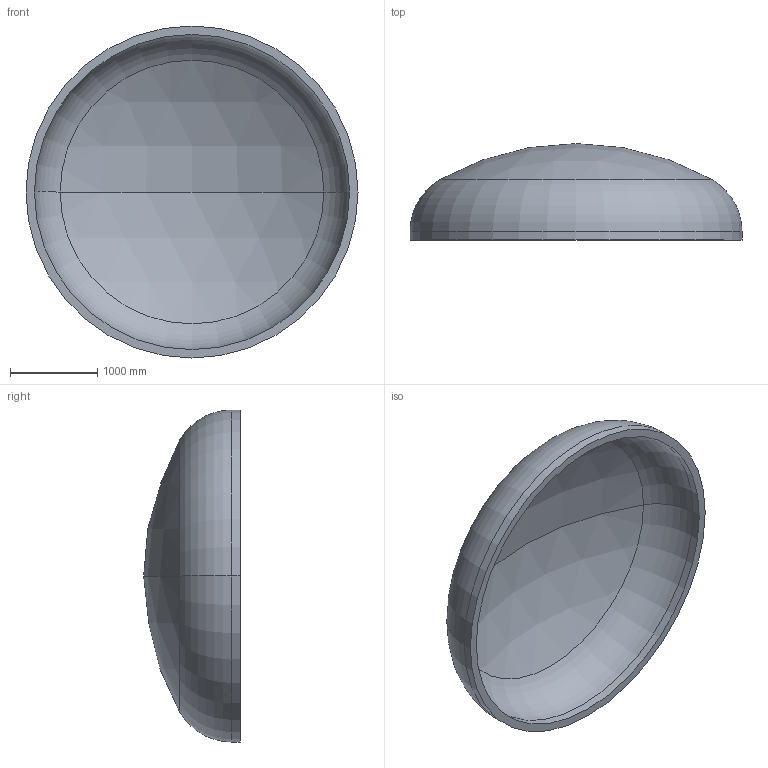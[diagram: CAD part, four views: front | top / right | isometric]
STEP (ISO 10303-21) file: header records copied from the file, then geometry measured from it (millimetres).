
FILE_DESCRIPTION (( 'STEP AP203' ), '1' );
FILE_NAME ('DIN 28013 Korbbogenform_-_Boden DIN 28013 - 3800 x 100 - I - s=96.step', '2016-07-01T21:46:41', ( '' ), ( '' ), 'SwSTEP 2.0', 'SolidWorks 2013', '' );
FILE_SCHEMA (( 'CONFIG_CONTROL_DESIGN' ));
Length unit declared in the file: millimetre
Products named in the file (1): DIN 28013 Korbbogenform_-_Boden DIN 28013 - 3800 x 100 - I - s=96
Bounding box: 3800 x 1105.02 x 3800 mm (x, y, z)
Volume: 1570377229.2 mm3; surface area: 33852583.1 mm2
Topology: 1 solids, 1 shells, 13 faces, 24 edges, 14 vertices
Faces by surface type: torus 4, cylinder 4, sphere 4, plane 1
Entity records: 407 total; most frequent: DIRECTION 72, CARTESIAN_POINT 52, ORIENTED_EDGE 48, AXIS2_PLACEMENT_3D 34, EDGE_CURVE 24, CIRCLE 20, EDGE_LOOP 14, VERTEX_POINT 14
